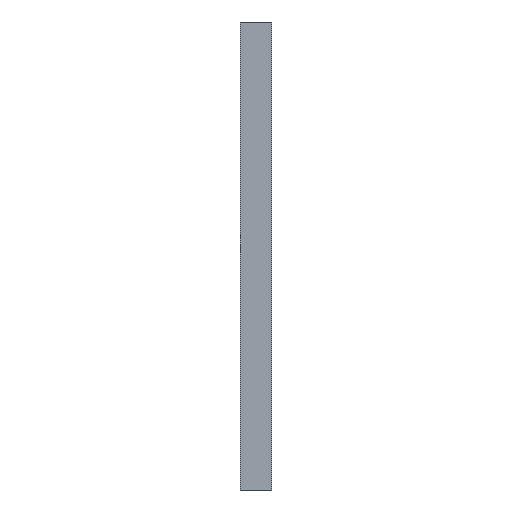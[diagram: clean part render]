
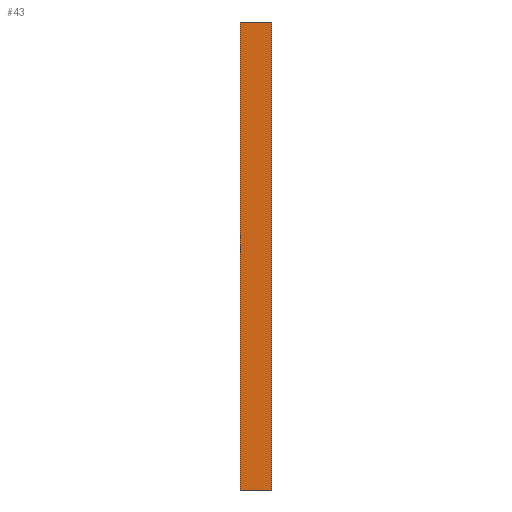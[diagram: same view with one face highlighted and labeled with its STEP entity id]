
A CAD part, left-side view. The second image highlights one B-rep face of the part: STEP entity #43.
In plain terms, the highlighted planar face has unit normal (-1, 0, 0).
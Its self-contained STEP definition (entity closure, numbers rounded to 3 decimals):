
#3 = CARTESIAN_POINT ( 'NONE',  ( 0., 10., 0. ) ) ;
#12 = VECTOR ( 'NONE', #98, 1000. ) ;
#18 = CARTESIAN_POINT ( 'NONE',  ( 0., 0., 0. ) ) ;
#22 = CARTESIAN_POINT ( 'NONE',  ( 0., 10., 0. ) ) ;
#43 = ADVANCED_FACE ( 'NONE', ( #76 ), #116, .F. ) ;
#58 = CARTESIAN_POINT ( 'NONE',  ( 0., 10., 0. ) ) ;
#59 = VERTEX_POINT ( 'NONE', #190 ) ;
#61 = DIRECTION ( 'NONE',  ( 0., 0., -1. ) ) ;
#64 = VECTOR ( 'NONE', #170, 1000. ) ;
#71 = EDGE_CURVE ( 'NONE', #59, #83, #193, .T. ) ;
#75 = ORIENTED_EDGE ( 'NONE', *, *, #71, .F. ) ;
#76 = FACE_OUTER_BOUND ( 'NONE', #126, .T. ) ;
#82 = VECTOR ( 'NONE', #118, 1000. ) ;
#83 = VERTEX_POINT ( 'NONE', #22 ) ;
#98 = DIRECTION ( 'NONE',  ( 0., -1., 0. ) ) ;
#101 = EDGE_CURVE ( 'NONE', #207, #181, #208, .T. ) ;
#109 = LINE ( 'NONE', #3, #64 ) ;
#110 = EDGE_CURVE ( 'NONE', #59, #207, #224, .T. ) ;
#116 = PLANE ( 'NONE',  #137 ) ;
#118 = DIRECTION ( 'NONE',  ( 0., 0., 1. ) ) ;
#126 = EDGE_LOOP ( 'NONE', ( #182, #153, #75, #156 ) ) ;
#135 = CARTESIAN_POINT ( 'NONE',  ( 0., 0., -150. ) ) ;
#137 = AXIS2_PLACEMENT_3D ( 'NONE', #58, #222, #61 ) ;
#138 = EDGE_CURVE ( 'NONE', #83, #181, #109, .T. ) ;
#150 = CARTESIAN_POINT ( 'NONE',  ( 0., 10., -150. ) ) ;
#153 = ORIENTED_EDGE ( 'NONE', *, *, #138, .F. ) ;
#156 = ORIENTED_EDGE ( 'NONE', *, *, #110, .T. ) ;
#166 = CARTESIAN_POINT ( 'NONE',  ( 0., 0., 0. ) ) ;
#170 = DIRECTION ( 'NONE',  ( 0., -1., 0. ) ) ;
#181 = VERTEX_POINT ( 'NONE', #18 ) ;
#182 = ORIENTED_EDGE ( 'NONE', *, *, #101, .T. ) ;
#190 = CARTESIAN_POINT ( 'NONE',  ( 0., 10., -150. ) ) ;
#193 = LINE ( 'NONE', #221, #82 ) ;
#199 = VECTOR ( 'NONE', #205, 1000. ) ;
#205 = DIRECTION ( 'NONE',  ( 0., 0., 1. ) ) ;
#207 = VERTEX_POINT ( 'NONE', #135 ) ;
#208 = LINE ( 'NONE', #166, #199 ) ;
#221 = CARTESIAN_POINT ( 'NONE',  ( 0., 10., 0. ) ) ;
#222 = DIRECTION ( 'NONE',  ( 1., 0., 0. ) ) ;
#224 = LINE ( 'NONE', #150, #12 ) ;
